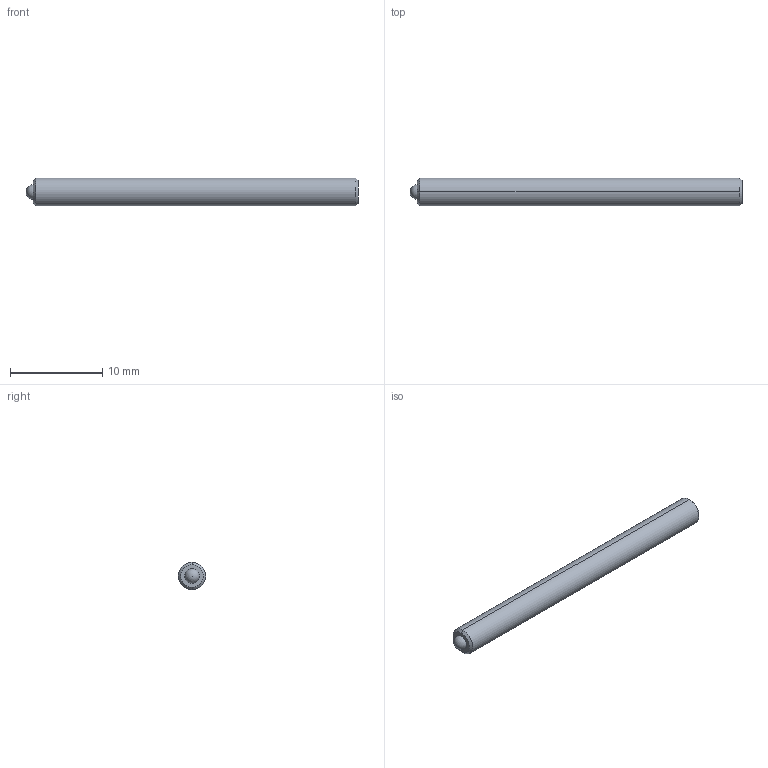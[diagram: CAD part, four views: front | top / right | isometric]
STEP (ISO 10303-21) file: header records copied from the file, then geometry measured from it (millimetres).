
FILE_DESCRIPTION (( 'STEP AP214' ), '1' );
FILE_NAME ('TS3-25-36.STEP', '2013-02-13T16:15:57', ( 'workpc' ), ( 'Microsoft' ), 'SwSTEP 2.0', 'SolidWorks 2013', '' );
FILE_SCHEMA (( 'AUTOMOTIVE_DESIGN' ));
Length unit declared in the file: millimetre
Products named in the file (1): TS3-25-36
Bounding box: 36 x 3 x 3 mm (x, y, z)
Volume: 244.9 mm3; surface area: 365.4 mm2
Topology: 2 solids, 2 shells, 20 faces, 45 edges, 29 vertices
Faces by surface type: plane 10, cylinder 4, cone 4, sphere 2
Entity records: 587 total; most frequent: DIRECTION 96, CARTESIAN_POINT 87, ORIENTED_EDGE 80, EDGE_CURVE 40, AXIS2_PLACEMENT_3D 35, VECTOR 26, VERTEX_POINT 26, LINE 26
